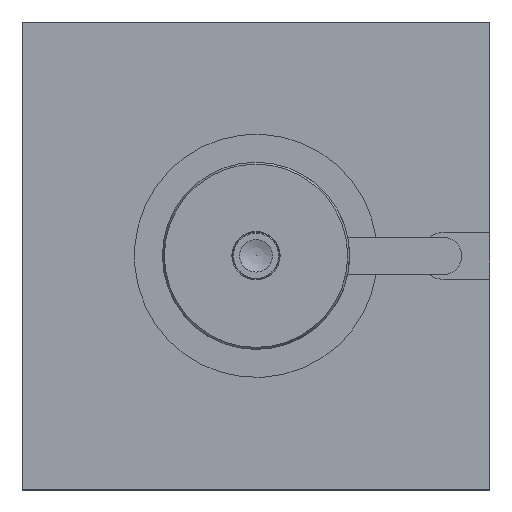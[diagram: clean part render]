
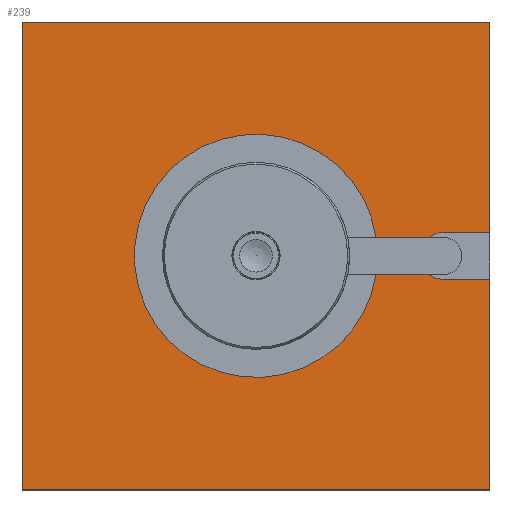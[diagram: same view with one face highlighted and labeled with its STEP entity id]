
A CAD part, top view. The second image highlights one B-rep face of the part: STEP entity #239.
In plain terms, the highlighted planar face has unit normal (0, 0, 1).
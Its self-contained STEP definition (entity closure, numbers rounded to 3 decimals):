
#239 = ADVANCED_FACE( '', ( #581 ), #582, .T. );
#581 = FACE_OUTER_BOUND( '', #1119, .T. );
#582 = PLANE( '', #1120 );
#1119 = EDGE_LOOP( '', ( #1728, #1729, #1730, #1731, #1732, #1733, #1734, #1735, #1736, #1737, #1738, #1739 ) );
#1120 = AXIS2_PLACEMENT_3D( '', #1740, #1741, #1742 );
#1728 = ORIENTED_EDGE( '', *, *, #2579, .F. );
#1729 = ORIENTED_EDGE( '', *, *, #2580, .F. );
#1730 = ORIENTED_EDGE( '', *, *, #2581, .F. );
#1731 = ORIENTED_EDGE( '', *, *, #2574, .F. );
#1732 = ORIENTED_EDGE( '', *, *, #2582, .T. );
#1733 = ORIENTED_EDGE( '', *, *, #2583, .T. );
#1734 = ORIENTED_EDGE( '', *, *, #2584, .T. );
#1735 = ORIENTED_EDGE( '', *, *, #2555, .T. );
#1736 = ORIENTED_EDGE( '', *, *, #2585, .T. );
#1737 = ORIENTED_EDGE( '', *, *, #2586, .F. );
#1738 = ORIENTED_EDGE( '', *, *, #2587, .F. );
#1739 = ORIENTED_EDGE( '', *, *, #2546, .F. );
#1740 = CARTESIAN_POINT( '', ( -125., -125., 0. ) );
#1741 = DIRECTION( '', ( 0., 0., 1. ) );
#1742 = DIRECTION( '', ( 0., -1., 0. ) );
#2546 = EDGE_CURVE( '', #2907, #2909, #2910, .T. );
#2555 = EDGE_CURVE( '', #2924, #2925, #2926, .T. );
#2574 = EDGE_CURVE( '', #2955, #2956, #2957, .T. );
#2579 = EDGE_CURVE( '', #2964, #2907, #2965, .T. );
#2580 = EDGE_CURVE( '', #2966, #2964, #2967, .T. );
#2581 = EDGE_CURVE( '', #2956, #2966, #2968, .T. );
#2582 = EDGE_CURVE( '', #2955, #2969, #2970, .T. );
#2583 = EDGE_CURVE( '', #2969, #2971, #2972, .T. );
#2584 = EDGE_CURVE( '', #2971, #2924, #2973, .T. );
#2585 = EDGE_CURVE( '', #2925, #2974, #2975, .T. );
#2586 = EDGE_CURVE( '', #2976, #2974, #2977, .T. );
#2587 = EDGE_CURVE( '', #2909, #2976, #2978, .T. );
#2907 = VERTEX_POINT( '', #3409 );
#2909 = VERTEX_POINT( '', #3412 );
#2910 = LINE( '', #3413, #3414 );
#2924 = VERTEX_POINT( '', #3432 );
#2925 = VERTEX_POINT( '', #3433 );
#2926 = LINE( '', #3434, #3435 );
#2955 = VERTEX_POINT( '', #3466 );
#2956 = VERTEX_POINT( '', #3467 );
#2957 = LINE( '', #3468, #3469 );
#2964 = VERTEX_POINT( '', #3479 );
#2965 = CIRCLE( '', #3480, 65. );
#2966 = VERTEX_POINT( '', #3481 );
#2967 = LINE( '', #3482, #3483 );
#2968 = CIRCLE( '', #3484, 12.5 );
#2969 = VERTEX_POINT( '', #3485 );
#2970 = LINE( '', #3486, #3487 );
#2971 = VERTEX_POINT( '', #3488 );
#2972 = LINE( '', #3489, #3490 );
#2973 = LINE( '', #3491, #3492 );
#2974 = VERTEX_POINT( '', #3493 );
#2975 = LINE( '', #3494, #3495 );
#2976 = VERTEX_POINT( '', #3496 );
#2977 = LINE( '', #3497, #3498 );
#2978 = CIRCLE( '', #3499, 12.5 );
#3409 = CARTESIAN_POINT( '', ( 64.226, -10., 0. ) );
#3412 = CARTESIAN_POINT( '', ( 92.5, -10., 0. ) );
#3413 = CARTESIAN_POINT( '', ( 0., -10., 0. ) );
#3414 = VECTOR( '', #3969, 1000. );
#3432 = CARTESIAN_POINT( '', ( -125., -125., 0. ) );
#3433 = CARTESIAN_POINT( '', ( 125., -125., 0. ) );
#3434 = CARTESIAN_POINT( '', ( -125., -125., 0. ) );
#3435 = VECTOR( '', #3980, 1000. );
#3466 = CARTESIAN_POINT( '', ( 125., 12.5, 0. ) );
#3467 = CARTESIAN_POINT( '', ( 100., 12.5, 0. ) );
#3468 = CARTESIAN_POINT( '', ( 148.185, 12.5, 0. ) );
#3469 = VECTOR( '', #4013, 1000. );
#3479 = CARTESIAN_POINT( '', ( 64.226, 10., 0. ) );
#3480 = AXIS2_PLACEMENT_3D( '', #4017, #4018, #4019 );
#3481 = CARTESIAN_POINT( '', ( 92.5, 10., 0. ) );
#3482 = CARTESIAN_POINT( '', ( 100., 10., 0. ) );
#3483 = VECTOR( '', #4020, 1000. );
#3484 = AXIS2_PLACEMENT_3D( '', #4021, #4022, #4023 );
#3485 = CARTESIAN_POINT( '', ( 125., 125., 0. ) );
#3486 = CARTESIAN_POINT( '', ( 125., -125., 0. ) );
#3487 = VECTOR( '', #4024, 1000. );
#3488 = CARTESIAN_POINT( '', ( -125., 125., 0. ) );
#3489 = CARTESIAN_POINT( '', ( 125., 125., 0. ) );
#3490 = VECTOR( '', #4025, 1000. );
#3491 = CARTESIAN_POINT( '', ( -125., 125., 0. ) );
#3492 = VECTOR( '', #4026, 1000. );
#3493 = CARTESIAN_POINT( '', ( 125., -12.5, 0. ) );
#3494 = CARTESIAN_POINT( '', ( 125., -125., 0. ) );
#3495 = VECTOR( '', #4027, 1000. );
#3496 = CARTESIAN_POINT( '', ( 100., -12.5, 0. ) );
#3497 = CARTESIAN_POINT( '', ( 100., -12.5, 0. ) );
#3498 = VECTOR( '', #4028, 1000. );
#3499 = AXIS2_PLACEMENT_3D( '', #4029, #4030, #4031 );
#3969 = DIRECTION( '', ( 1., 0., 0. ) );
#3980 = DIRECTION( '', ( 1., 0., 0. ) );
#4013 = DIRECTION( '', ( -1., 0., 0. ) );
#4017 = CARTESIAN_POINT( '', ( 0., 0., 0. ) );
#4018 = DIRECTION( '', ( 0., 0., 1. ) );
#4019 = DIRECTION( '', ( 1., 0., 0. ) );
#4020 = DIRECTION( '', ( -1., 0., 0. ) );
#4021 = CARTESIAN_POINT( '', ( 100., 0., 0. ) );
#4022 = DIRECTION( '', ( 0., 0., 1. ) );
#4023 = DIRECTION( '', ( 0., 1., 0. ) );
#4024 = DIRECTION( '', ( 0., 1., 0. ) );
#4025 = DIRECTION( '', ( -1., 0., 0. ) );
#4026 = DIRECTION( '', ( 0., -1., 0. ) );
#4027 = DIRECTION( '', ( 0., 1., 0. ) );
#4028 = DIRECTION( '', ( 1., 0., 0. ) );
#4029 = CARTESIAN_POINT( '', ( 100., 0., 0. ) );
#4030 = DIRECTION( '', ( 0., 0., 1. ) );
#4031 = DIRECTION( '', ( 0., 1., 0. ) );
